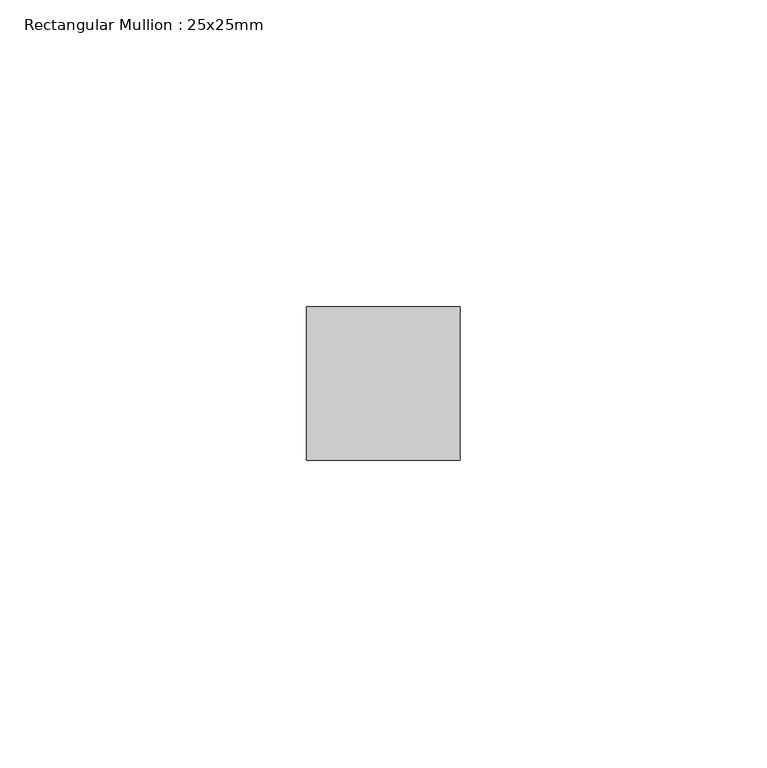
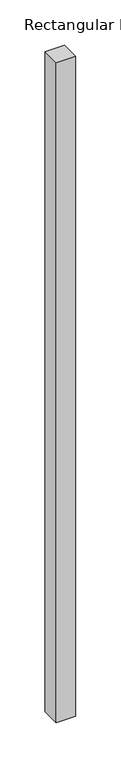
"""IFC4 building model written with IfcOpenShell, lengths in millimetres: member geometry, Rectangular Mullion : 25x25mm."""

from ifc_helpers import new_model, si_unit, frame, origin, place, context, project, spatial, polyline, outline, extrude, source, transform, mapped, element, save


def rectangular_mullion_25x25mm_2d4ba261(model_context):
    return source(origin(), model_context, "Body", "SweptSolid", [
        extrude(outline(polyline([(0.0, 24.5), (0.0, -0.5), (-25.0, -0.5), (-25.0, 24.5), (0.0, 24.5)])), frame((0.0, 0.0, -892.5), z_axis=(0.0, 0.0, 1.0), x_axis=(1.0, 0.0, 0.0)), (0.0, 0.0, 1.0), 892.5),
    ])


if __name__ == "__main__":
    model = new_model("IFC4")
    model_context = context("Model", 3, world=origin())
    ifc_project = project(units=[si_unit("LENGTHUNIT", "METRE", prefix="MILLI")], contexts=[model_context])
    site = spatial("IfcSite", under=ifc_project)
    building = spatial("IfcBuilding", under=site)
    placement = place(None, origin())
    rectangular_mullion_25x25mm_shape = rectangular_mullion_25x25mm_2d4ba261(model_context)
    element("IfcMember", 1, ObjectType="Rectangular Mullion : 25x25mm", at=placement, inside=building, context=model_context, shape_type="MappedRepresentation", body=[
        mapped(rectangular_mullion_25x25mm_shape, transform((0.0, 0.0, 0.0), x_axis=(1.0, 0.0, 0.0), y_axis=(0.0, 1.0, 0.0), z_axis=(0.0, 0.0, 1.0))),
    ])
    save(model, "model.ifc")
